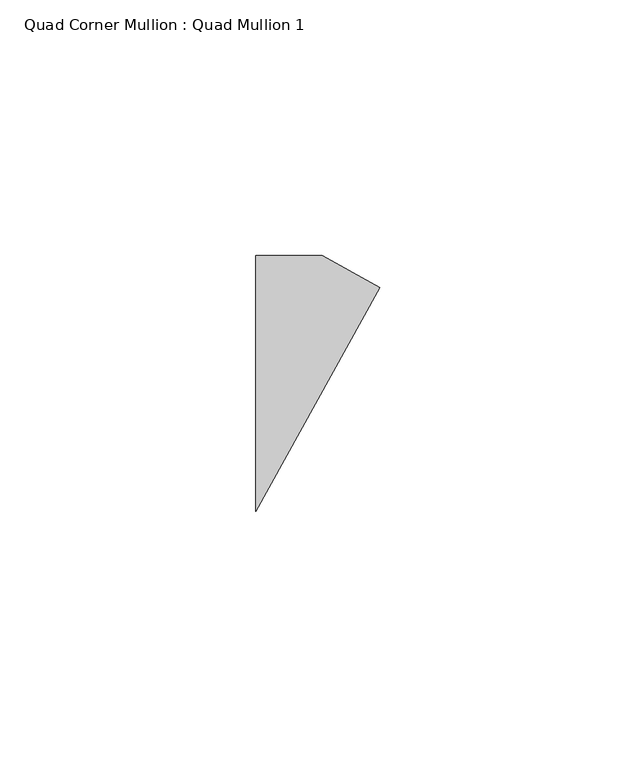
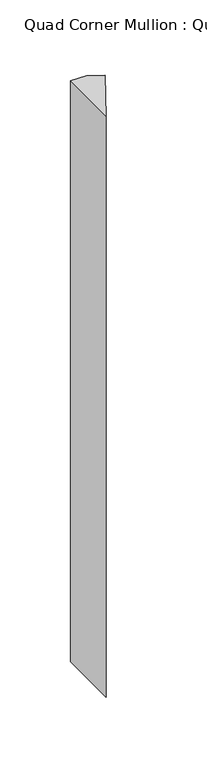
"""IFC4 building model written with IfcOpenShell, lengths in millimetres: member geometry, Quad Corner Mullion : Quad Mullion 1."""

from ifc_helpers import new_model, si_unit, frame, origin, place, context, project, spatial, polyline, outline, extrude, source, transform, mapped, element, save


def quad_corner_mullion_quad_mullion_1_2de6e3a8(model_context):
    return source(origin(), model_context, "Body", "SweptSolid", [
        extrude(outline(polyline([(17.7750414, 18.7309854), (-6.4654396, -25.0), (-6.4654396, 25.0), (6.4654396, 25.0), (17.7750414, 18.7309854)])), frame((0.0, 0.0, -500.0), z_axis=(0.0, 0.0, 1.0), x_axis=(1.0, 0.0, 0.0)), (0.0, 0.0, 1.0), 500.0),
    ])


if __name__ == "__main__":
    model = new_model("IFC4")
    model_context = context("Model", 3, world=origin())
    ifc_project = project(units=[si_unit("LENGTHUNIT", "METRE", prefix="MILLI")], contexts=[model_context])
    site = spatial("IfcSite", under=ifc_project)
    building = spatial("IfcBuilding", under=site)
    placement = place(None, origin())
    quad_corner_mullion_quad_mullion_1_shape = quad_corner_mullion_quad_mullion_1_2de6e3a8(model_context)
    element("IfcMember", 1, ObjectType="Quad Corner Mullion : Quad Mullion 1", at=placement, inside=building, context=model_context, shape_type="MappedRepresentation", body=[
        mapped(quad_corner_mullion_quad_mullion_1_shape, transform((0.0, 0.0, 0.0), x_axis=(1.0, 0.0, 0.0), y_axis=(0.0, 1.0, 0.0), z_axis=(0.0, 0.0, 1.0))),
    ])
    save(model, "model.ifc")
